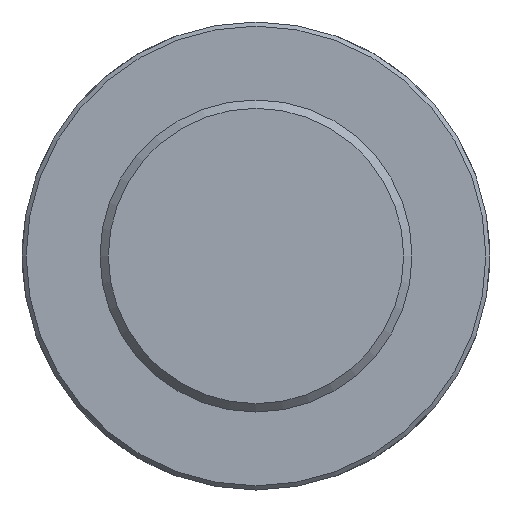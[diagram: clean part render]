
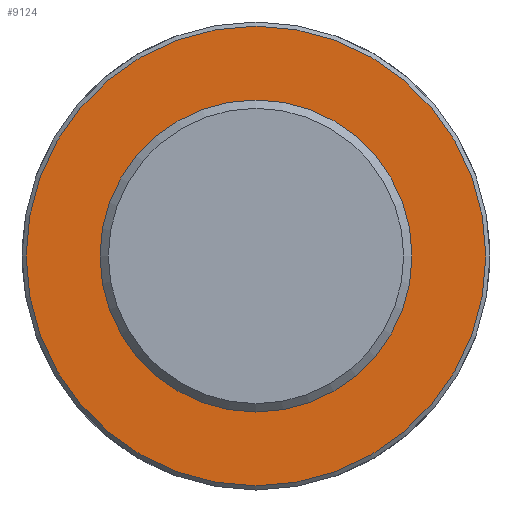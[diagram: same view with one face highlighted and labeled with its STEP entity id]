
A CAD part, front view. The second image highlights one B-rep face of the part: STEP entity #9124.
In plain terms, the highlighted planar face has unit normal (0, -1, 0) as drawn and (0, 1, 0) by its records, which use the part's own axes.
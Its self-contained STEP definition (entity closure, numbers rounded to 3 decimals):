
#73=CIRCLE('',#9445,110.5);
#1455=FACE_OUTER_BOUND('',#2021,.T.);
#2021=EDGE_LOOP('',(#8385));
#4425=VERTEX_POINT('',#16940);
#5750=EDGE_CURVE('',#4425,#4425,#73,.T.);
#8385=ORIENTED_EDGE('',*,*,#5750,.F.);
#8632=PLANE('',#9448);
#9124=ADVANCED_FACE('',(#1455),#8632,.T.);
#9445=AXIS2_PLACEMENT_3D('',#16941,#10702,#10703);
#9448=AXIS2_PLACEMENT_3D('',#17179,#10708,#10709);
#10702=DIRECTION('center_axis',(0.,-1.,0.));
#10703=DIRECTION('ref_axis',(1.,0.,0.));
#10708=DIRECTION('center_axis',(0.,1.,0.));
#10709=DIRECTION('ref_axis',(0.,0.,1.));
#16940=CARTESIAN_POINT('',(-110.5,100.,0.));
#16941=CARTESIAN_POINT('Origin',(0.,100.,0.));
#17179=CARTESIAN_POINT('Origin',(0.,100.,0.));
